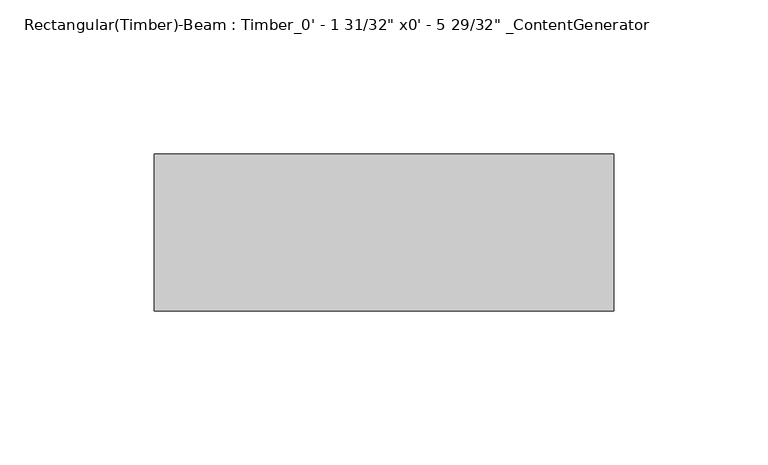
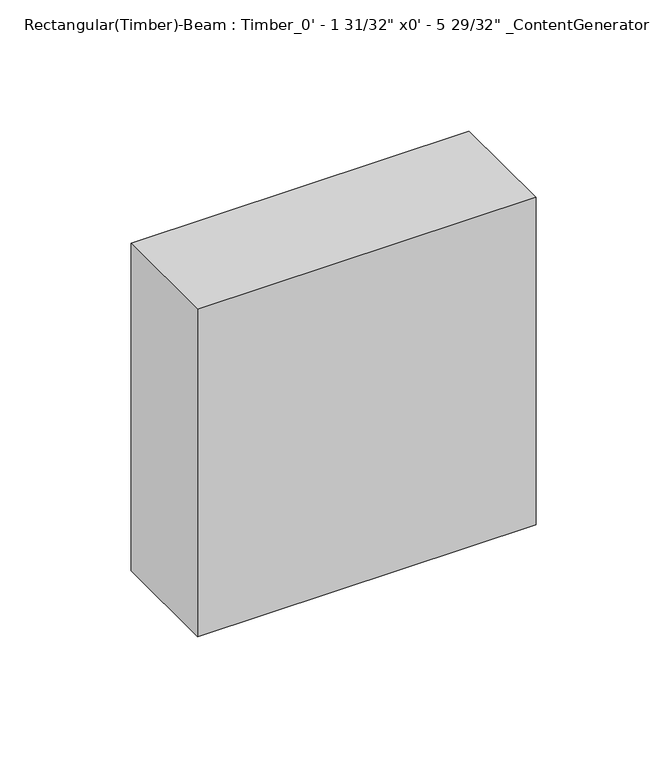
"""IFC4 building model written with IfcOpenShell, lengths in millimetres: beam geometry."""

import ifcopenshell
import ifcopenshell.guid

model = None  # the IFC model being written
_history = None  # IfcOwnerHistory: only IFC2X3 demands one
_inside = {}  # id of a spatial element -> (the spatial element, [elements in it])
_under = {}  # id of a project, library or spatial element -> (it, [spatial elements below it])
_declared = {}  # id of a project -> (the project, [libraries it declares])
_typed = {}  # id of a type object -> (the type object, [elements of that type])
_made_of = {}  # id of a material, layer set ... -> (it, [elements and type objects made of it])


def new_model(schema):
    """Start an empty IFC model of exactly this schema.

    Asked for "IFC4X3", IfcOpenShell would pick the latest addendum, in which some entities
    have other attributes; the version numbers below select the first issue.
    IFC2X3 requires an IfcOwnerHistory on every rooted entity: one is made here for all.
    """
    global model, _history
    if schema == "IFC4X3":
        model = ifcopenshell.file(schema_version=(4, 3, 0, 0))
    else:
        model = ifcopenshell.file(schema=schema)
    _inside.clear()
    _under.clear()
    _declared.clear()
    _typed.clear()
    _made_of.clear()
    _history = None
    if model.schema == "IFC2X3":
        org = make("IfcOrganization", Name="unknown")
        user = make(
            "IfcPersonAndOrganization",
            ThePerson=make("IfcPerson", FamilyName="unknown"),
            TheOrganization=org,
        )
        app = make(
            "IfcApplication",
            ApplicationDeveloper=org,
            Version="unknown",
            ApplicationFullName="unknown",
            ApplicationIdentifier="unknown",
        )
        _history = make(
            "IfcOwnerHistory",
            OwningUser=user,
            OwningApplication=app,
            ChangeAction="ADDED",
            CreationDate=0,
        )
    return model


def make(cls, **values):
    """One entity of the class cls with the attributes given. An attribute that is None is left unset."""
    return model.create_entity(
        cls, **{name: value for name, value in values.items() if value is not None}
    )


def rooted(cls, **values):
    """An entity with a GlobalId (a new one), such as an element, a storey or a relation."""
    return make(cls, GlobalId=ifcopenshell.guid.new(), OwnerHistory=_history, **values)


def si_unit(unit_type, name, prefix=None):
    """IfcSIUnit, for example si_unit("LENGTHUNIT", "METRE", prefix="MILLI")."""
    return make("IfcSIUnit", UnitType=unit_type, Prefix=prefix, Name=name)


def assignment(units):
    """IfcUnitAssignment: the units of a project."""
    return None if units is None else make("IfcUnitAssignment", Units=units)


def point(xyz):
    """IfcCartesianPoint."""
    return None if xyz is None else make("IfcCartesianPoint", Coordinates=xyz)


def direction(xyz):
    """IfcDirection."""
    return None if xyz is None else make("IfcDirection", DirectionRatios=xyz)


def frame(location, z_axis=None, x_axis=None):
    """IfcAxis2Placement3D, a coordinate frame: its origin and axes. An axis left out is left unset."""
    return make(
        "IfcAxis2Placement3D",
        Location=point(location),
        Axis=direction(z_axis),
        RefDirection=direction(x_axis),
    )


def origin():
    """The frame at (0, 0, 0) with its axes left unset."""
    return frame((0.0, 0.0, 0.0))


def place(relative_to, where):
    """IfcLocalPlacement: puts the frame where relative to a parent placement (None: the world)."""
    return make(
        "IfcLocalPlacement", PlacementRelTo=relative_to, RelativePlacement=where
    )


def context(
    kind, dimensions, precision=None, world=None, true_north=None, identifier=None
):
    """IfcGeometricRepresentationContext, for example the 3D "Model" context."""
    return make(
        "IfcGeometricRepresentationContext",
        ContextIdentifier=identifier,
        ContextType=kind,
        CoordinateSpaceDimension=dimensions,
        Precision=precision,
        WorldCoordinateSystem=world,
        TrueNorth=true_north,
    )


def project(units=None, contexts=None):
    """IfcProject with its units and contexts."""
    return rooted(
        "IfcProject",
        Name="project",
        RepresentationContexts=contexts,
        UnitsInContext=assignment(units),
    )


def spatial(cls, under=None, at=None, **own):
    """A site, building, storey or space (cls), placed at a placement, below another one or the project."""
    s = rooted(cls, ObjectPlacement=at, **own)
    if under is not None:
        _under.setdefault(under.id(), (under, []))[1].append(s)
    return s


def polyline(points):
    """IfcPolyline through the points."""
    return make("IfcPolyline", Points=[point(p) for p in points])


def outline(outer, holes=None, kind="AREA"):
    """IfcArbitraryClosedProfileDef: a profile drawn as a closed curve; with holes, ...WithVoids."""
    if holes is None:
        return make("IfcArbitraryClosedProfileDef", ProfileType=kind, OuterCurve=outer)
    return make(
        "IfcArbitraryProfileDefWithVoids",
        ProfileType=kind,
        OuterCurve=outer,
        InnerCurves=holes,
    )


def extrude(swept, where, along, depth):
    """IfcExtrudedAreaSolid: the profile swept, set in the frame where, extruded along a direction by depth."""
    return make(
        "IfcExtrudedAreaSolid",
        SweptArea=swept,
        Position=where,
        ExtrudedDirection=direction(along),
        Depth=depth,
    )


def shape(context_of_items, identifier, shape_type, items):
    """IfcShapeRepresentation: the items that make up one representation, for example the "Body"."""
    return make(
        "IfcShapeRepresentation",
        ContextOfItems=context_of_items,
        RepresentationIdentifier=identifier,
        RepresentationType=shape_type,
        Items=items,
    )


def source(mapping_origin, context_of_items, identifier, shape_type, items):
    """IfcRepresentationMap: a shape defined once, which mapped items show again and again."""
    return make(
        "IfcRepresentationMap",
        MappingOrigin=mapping_origin,
        MappedRepresentation=shape(context_of_items, identifier, shape_type, items),
    )


def transform(
    local_origin,
    x_axis=None,
    y_axis=None,
    z_axis=None,
    scale=None,
    scale2=None,
    scale3=None,
    uniform=True,
):
    """IfcCartesianTransformationOperator3D, or its non-uniform kind. x_axis, y_axis, z_axis: its Axis1, 2, 3."""
    if uniform:
        return make(
            "IfcCartesianTransformationOperator3D",
            Axis1=direction(x_axis),
            Axis2=direction(y_axis),
            LocalOrigin=point(local_origin),
            Scale=scale,
            Axis3=direction(z_axis),
        )
    return make(
        "IfcCartesianTransformationOperator3DnonUniform",
        Axis1=direction(x_axis),
        Axis2=direction(y_axis),
        LocalOrigin=point(local_origin),
        Scale=scale,
        Axis3=direction(z_axis),
        Scale2=scale2,
        Scale3=scale3,
    )


def mapped(mapping_source, mapping_target):
    """IfcMappedItem: shows the shape of a source again, moved by a transform."""
    return make(
        "IfcMappedItem", MappingSource=mapping_source, MappingTarget=mapping_target
    )


def made_of(thing, what):
    """Note that an element or type object is made of a material, layer set ...; save() writes the relation."""
    if what is not None:
        _made_of.setdefault(what.id(), (what, []))[1].append(thing)
    return thing


def element(
    cls,
    number,
    at=None,
    inside=None,
    cuts=None,
    type_object=None,
    material=None,
    context=None,
    identifier="Body",
    shape_type=None,
    held_by="IfcProductDefinitionShape",
    body=None,
    shapes=None,
    **own,
):
    """One element of the class cls, such as IfcWall. Its Tag is "e" and its number.

    at: its placement. inside: the storey or other place that contains it. cuts: it is an
    opening in that element (IfcRelVoidsElement). A single representation is given by context,
    identifier, shape_type and body (its items); several are given by shapes. held_by: the class
    of the entity that holds the representations. save() writes the other relations.
    """
    e = rooted(cls, Tag="e%d" % number, ObjectPlacement=at, **own)
    if body is not None:
        shapes = [shape(context, identifier, shape_type, body)]
    if shapes is not None:
        e.Representation = make(held_by, Representations=shapes)
    if inside is not None:
        _inside.setdefault(inside.id(), (inside, []))[1].append(e)
    if cuts is not None:
        rooted(
            "IfcRelVoidsElement", RelatingBuildingElement=cuts, RelatedOpeningElement=e
        )
    if type_object is not None:
        _typed.setdefault(type_object.id(), (type_object, []))[1].append(e)
    return made_of(e, material)


def aggregate(whole, parts):
    """IfcRelAggregates: a whole, such as a stair, and the parts it consists of."""
    return rooted("IfcRelAggregates", RelatingObject=whole, RelatedObjects=parts)


def save(model, path):
    """Write the relations noted so far, then the file.

    IfcRelAggregates (storeys below a building ...), IfcRelContainedInSpatialStructure (elements
    in a storey), IfcRelDefinesByType, IfcRelAssociatesMaterial and IfcRelDeclares: one each for
    every whole, place, type object, material and project.
    """
    for whole, parts in _under.values():
        aggregate(whole, parts)
    for where, things in _inside.values():
        rooted(
            "IfcRelContainedInSpatialStructure",
            RelatedElements=things,
            RelatingStructure=where,
        )
    for kind, things in _typed.values():
        rooted("IfcRelDefinesByType", RelatedObjects=things, RelatingType=kind)
    for what, things in _made_of.values():
        rooted("IfcRelAssociatesMaterial", RelatedObjects=things, RelatingMaterial=what)
    for by, libraries in _declared.values():
        rooted("IfcRelDeclares", RelatingContext=by, RelatedDefinitions=libraries)
    model.write(path)


def beam_4777987f(model_context):
    return source(origin(), model_context, "Body", "SweptSolid", [
        extrude(outline(polyline([(74.4426891, 25.4), (74.4426891, -25.4), (-74.4426885, -25.4), (-74.4426885, 25.4), (74.4426891, 25.4)])), frame((0.0, 0.0, -76.2), z_axis=(0.0, 0.0, 1.0), x_axis=(1.0, 0.0, 0.0)), (0.0, 0.0, 1.0), 152.4),
    ])


if __name__ == "__main__":
    model = new_model("IFC4")
    model_context = context("Model", 3, world=origin())
    ifc_project = project(units=[si_unit("LENGTHUNIT", "METRE", prefix="MILLI")], contexts=[model_context])
    site = spatial("IfcSite", under=ifc_project)
    building = spatial("IfcBuilding", under=site)
    placement = place(None, origin())
    beam_shape = beam_4777987f(model_context)
    element("IfcBeam", 1, ObjectType="Rectangular(Timber)-Beam : Timber_0' - 1 31/32\" x0' - 5 29/32\" _ContentGenerator", at=placement, inside=building, context=model_context, shape_type="MappedRepresentation", body=[
        mapped(beam_shape, transform((0.0, 0.0, 0.0), x_axis=(1.0, 0.0, 0.0), y_axis=(0.0, 1.0, 0.0), z_axis=(0.0, 0.0, 1.0))),
    ])
    save(model, "model.ifc")
